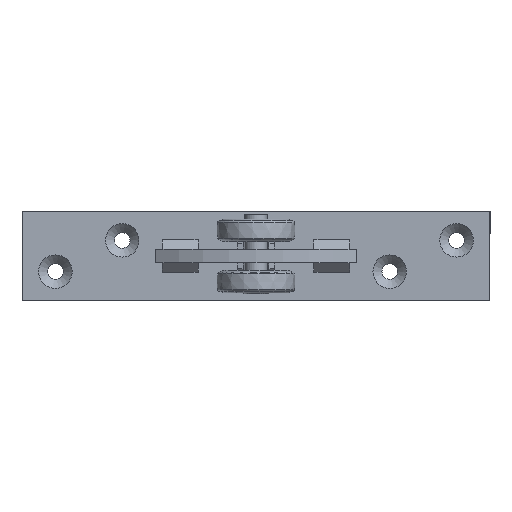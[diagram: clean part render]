
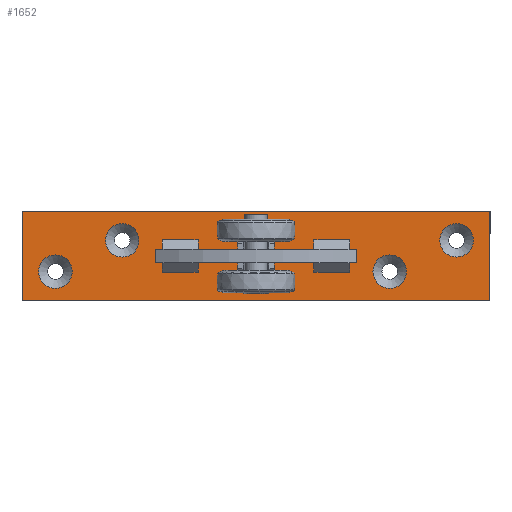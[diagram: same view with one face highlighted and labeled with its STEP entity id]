
A CAD part, front view. The second image highlights one B-rep face of the part: STEP entity #1652.
In plain terms, the highlighted planar face has unit normal (0, -1, 0) as drawn and (0, 0, 1) by its records, which use the part's own axes.
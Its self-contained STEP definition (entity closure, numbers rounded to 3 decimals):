
#95=FACE_BOUND('',#393,.T.);
#96=FACE_BOUND('',#394,.T.);
#97=FACE_BOUND('',#395,.T.);
#98=FACE_BOUND('',#396,.T.);
#131=CIRCLE('',#1766,7.5);
#134=CIRCLE('',#1771,7.5);
#137=CIRCLE('',#1776,7.5);
#140=CIRCLE('',#1781,7.5);
#275=FACE_OUTER_BOUND('',#392,.T.);
#392=EDGE_LOOP('',(#1268,#1269,#1270,#1271));
#393=EDGE_LOOP('',(#1272));
#394=EDGE_LOOP('',(#1273));
#395=EDGE_LOOP('',(#1274));
#396=EDGE_LOOP('',(#1275));
#543=LINE('',#2561,#675);
#547=LINE('',#2568,#679);
#550=LINE('',#2574,#682);
#552=LINE('',#2577,#684);
#675=VECTOR('',#2079,40.);
#679=VECTOR('',#2085,210.);
#682=VECTOR('',#2090,40.);
#684=VECTOR('',#2094,210.);
#791=VERTEX_POINT('',#2523);
#794=VERTEX_POINT('',#2531);
#797=VERTEX_POINT('',#2539);
#800=VERTEX_POINT('',#2547);
#805=VERTEX_POINT('',#2558);
#806=VERTEX_POINT('',#2560);
#808=VERTEX_POINT('',#2566);
#810=VERTEX_POINT('',#2572);
#963=EDGE_CURVE('',#791,#791,#131,.T.);
#966=EDGE_CURVE('',#794,#794,#134,.T.);
#969=EDGE_CURVE('',#797,#797,#137,.T.);
#972=EDGE_CURVE('',#800,#800,#140,.T.);
#977=EDGE_CURVE('',#805,#806,#543,.T.);
#981=EDGE_CURVE('',#808,#805,#547,.T.);
#984=EDGE_CURVE('',#810,#808,#550,.T.);
#986=EDGE_CURVE('',#806,#810,#552,.T.);
#1268=ORIENTED_EDGE('',*,*,#986,.F.);
#1269=ORIENTED_EDGE('',*,*,#977,.F.);
#1270=ORIENTED_EDGE('',*,*,#981,.F.);
#1271=ORIENTED_EDGE('',*,*,#984,.F.);
#1272=ORIENTED_EDGE('',*,*,#963,.T.);
#1273=ORIENTED_EDGE('',*,*,#966,.T.);
#1274=ORIENTED_EDGE('',*,*,#969,.T.);
#1275=ORIENTED_EDGE('',*,*,#972,.T.);
#1573=PLANE('',#1789);
#1652=ADVANCED_FACE('',(#275,#95,#96,#97,#98),#1573,.T.);
#1766=AXIS2_PLACEMENT_3D('',#2524,#2037,#2038);
#1771=AXIS2_PLACEMENT_3D('',#2532,#2047,#2048);
#1776=AXIS2_PLACEMENT_3D('',#2540,#2057,#2058);
#1781=AXIS2_PLACEMENT_3D('',#2548,#2067,#2068);
#1789=AXIS2_PLACEMENT_3D('',#2578,#2095,#2096);
#2037=DIRECTION('center_axis',(0.,0.,-1.));
#2038=DIRECTION('ref_axis',(1.,0.,0.));
#2047=DIRECTION('center_axis',(0.,0.,-1.));
#2048=DIRECTION('ref_axis',(1.,0.,0.));
#2057=DIRECTION('center_axis',(0.,0.,-1.));
#2058=DIRECTION('ref_axis',(1.,0.,0.));
#2067=DIRECTION('center_axis',(0.,0.,-1.));
#2068=DIRECTION('ref_axis',(1.,0.,0.));
#2079=DIRECTION('',(0.,1.,0.));
#2085=DIRECTION('',(-1.,0.,0.));
#2090=DIRECTION('',(0.,-1.,0.));
#2094=DIRECTION('',(1.,0.,0.));
#2095=DIRECTION('center_axis',(0.,0.,1.));
#2096=DIRECTION('ref_axis',(1.,0.,0.));
#2523=CARTESIAN_POINT('',(97.5,7.,0.));
#2524=CARTESIAN_POINT('Origin',(90.,7.,0.));
#2531=CARTESIAN_POINT('',(67.5,-7.,0.));
#2532=CARTESIAN_POINT('Origin',(60.,-7.,0.));
#2539=CARTESIAN_POINT('',(-52.5,7.,0.));
#2540=CARTESIAN_POINT('Origin',(-60.,7.,0.));
#2547=CARTESIAN_POINT('',(-82.5,-7.,0.));
#2548=CARTESIAN_POINT('Origin',(-90.,-7.,0.));
#2558=CARTESIAN_POINT('',(-105.,-20.,0.));
#2560=CARTESIAN_POINT('',(-105.,20.,0.));
#2561=CARTESIAN_POINT('',(-105.,-20.,0.));
#2566=CARTESIAN_POINT('',(105.,-20.,0.));
#2568=CARTESIAN_POINT('',(105.,-20.,0.));
#2572=CARTESIAN_POINT('',(105.,20.,0.));
#2574=CARTESIAN_POINT('',(105.,20.,0.));
#2577=CARTESIAN_POINT('',(-105.,20.,0.));
#2578=CARTESIAN_POINT('Origin',(0.,0.,
0.));
